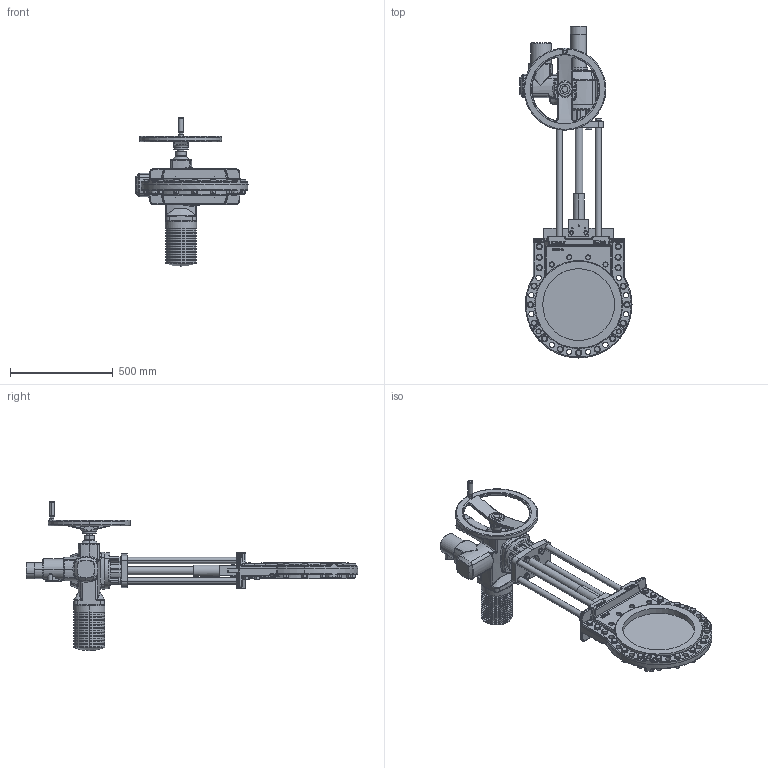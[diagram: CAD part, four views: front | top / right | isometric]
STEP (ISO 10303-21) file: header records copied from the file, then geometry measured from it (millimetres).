
FILE_DESCRIPTION (( 'STEP AP214' ), '1' );
FILE_NAME ('MGE DN 0350 PN16 (SA 14.6).STEP', '2015-09-23T08:48:25', ( 'admin' ), ( 'Hewlett-Packard Company' ), 'SwSTEP 2.0', 'SolidWorks 2013', '' );
FILE_SCHEMA (( 'AUTOMOTIVE_DESIGN' ));
Length unit declared in the file: millimetre
Products named in the file (1): MGE DN 0350 PN16 (SA 14.6)
Bounding box: 546 x 1617.5 x 727 mm (x, y, z)
Volume: 33538919.9 mm3; surface area: 2506269.5 mm2
Topology: 90 solids, 102 shells, 3331 faces, 7711 edges, 4661 vertices
Faces by surface type: plane 1138, cylinder 950, cone 629, bspline 342, torus 244, sphere 28
Entity records: 157593 total; most frequent: CARTESIAN_POINT 46424, ORIENTED_EDGE 15294, DIRECTION 15258, EDGE_CURVE 7647, AXIS2_PLACEMENT_3D 6195, VERTEX_POINT 4661, EDGE_LOOP 3694, UNCERTAINTY_MEASURE_WITH_UNIT 3421
